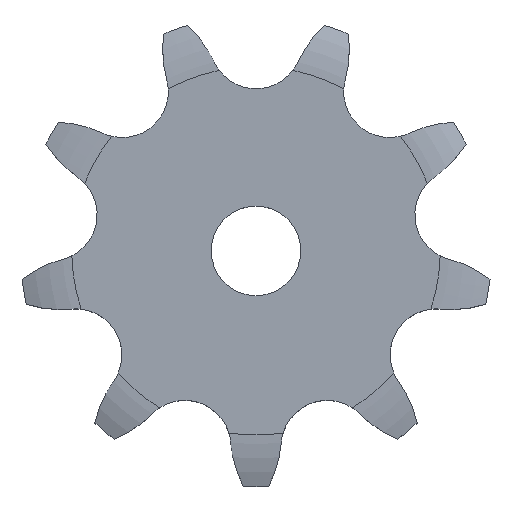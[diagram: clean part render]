
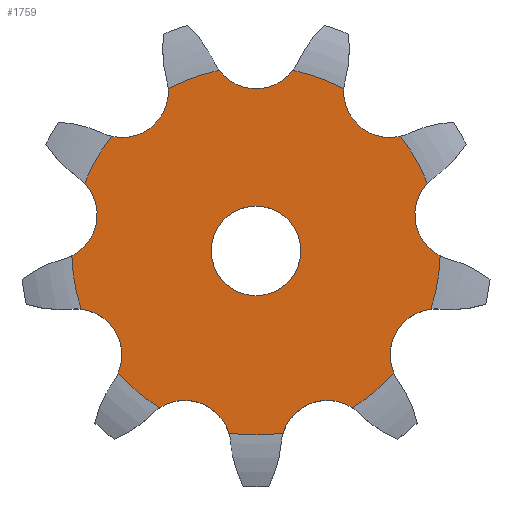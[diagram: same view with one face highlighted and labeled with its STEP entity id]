
A CAD part, top view. The second image highlights one B-rep face of the part: STEP entity #1759.
In plain terms, the highlighted planar face has unit normal (0, 0, 1).
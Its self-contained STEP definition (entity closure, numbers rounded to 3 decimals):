
#33=CARTESIAN_POINT('',(0.,0.,4.55));
#34=DIRECTION('',(0.,0.,-1.));
#35=DIRECTION('',(0.2,0.98,0.));
#36=AXIS2_PLACEMENT_3D('',#33,#34,#35);
#42=CARTESIAN_POINT('',(14.918,17.778,4.55));
#43=DIRECTION('',(0.,0.,1.));
#44=DIRECTION('',(-0.998,0.057,0.));
#45=AXIS2_PLACEMENT_3D('',#42,#43,#44);
#50=CARTESIAN_POINT('',(0.,0.,4.55));
#51=DIRECTION('',(0.,0.,-1.));
#52=DIRECTION('',(0.783,0.622,0.));
#53=AXIS2_PLACEMENT_3D('',#50,#51,#52);
#58=CARTESIAN_POINT('',(22.855,4.03,4.55));
#59=DIRECTION('',(0.,0.,1.));
#60=DIRECTION('',(-0.728,0.686,0.));
#61=AXIS2_PLACEMENT_3D('',#58,#59,#60);
#66=CARTESIAN_POINT('',(0.,0.,4.55));
#67=DIRECTION('',(0.,0.,-1.));
#68=DIRECTION('',(1.,-0.027,0.));
#69=AXIS2_PLACEMENT_3D('',#66,#67,#68);
#74=CARTESIAN_POINT('',(20.098,-11.604,4.55));
#75=DIRECTION('',(0.,0.,1.));
#76=DIRECTION('',(-0.117,0.993,0.));
#77=AXIS2_PLACEMENT_3D('',#74,#75,#76);
#82=CARTESIAN_POINT('',(0.,0.,4.55));
#83=DIRECTION('',(0.,0.,-1.));
#84=DIRECTION('',(0.748,-0.663,0.));
#85=AXIS2_PLACEMENT_3D('',#82,#83,#84);
#90=CARTESIAN_POINT('',(7.938,-21.808,4.55));
#91=DIRECTION('',(0.,0.,1.));
#92=DIRECTION('',(0.549,0.836,0.));
#93=AXIS2_PLACEMENT_3D('',#90,#91,#92);
#98=CARTESIAN_POINT('',(-7.938,-21.808,4.55));
#99=DIRECTION('',(0.,0.,1.));
#100=DIRECTION('',(0.958,0.287,0.));
#101=AXIS2_PLACEMENT_3D('',#98,#99,#100);
#106=CARTESIAN_POINT('',(0.,0.,4.55));
#107=DIRECTION('',(0.,0.,-1.));
#108=DIRECTION('',(-0.523,-0.852,0.));
#109=AXIS2_PLACEMENT_3D('',#106,#107,#108);
#114=CARTESIAN_POINT('',(-20.098,-11.604,4.55));
#115=DIRECTION('',(0.,0.,1.));
#116=DIRECTION('',(0.919,-0.395,0.));
#117=AXIS2_PLACEMENT_3D('',#114,#115,#116);
#122=CARTESIAN_POINT('',(0.,0.,4.55));
#123=DIRECTION('',(0.,0.,-1.));
#124=DIRECTION('',(-0.949,-0.317,0.));
#125=AXIS2_PLACEMENT_3D('',#122,#123,#124);
#130=CARTESIAN_POINT('',(-22.855,4.03,4.55));
#131=DIRECTION('',(0.,0.,1.));
#132=DIRECTION('',(0.449,-0.893,0.));
#133=AXIS2_PLACEMENT_3D('',#130,#131,#132);
#138=CARTESIAN_POINT('',(0.,0.,4.55));
#139=DIRECTION('',(0.,0.,-1.));
#140=DIRECTION('',(-0.93,0.367,0.));
#141=AXIS2_PLACEMENT_3D('',#138,#139,#140);
#146=CARTESIAN_POINT('',(-14.918,17.778,4.55));
#147=DIRECTION('',(0.,0.,1.));
#148=DIRECTION('',(-0.23,-0.973,0.));
#149=AXIS2_PLACEMENT_3D('',#146,#147,#148);
#154=CARTESIAN_POINT('',(0.,0.,4.55));
#155=DIRECTION('',(0.,0.,-1.));
#156=DIRECTION('',(-0.477,0.879,0.));
#157=AXIS2_PLACEMENT_3D('',#154,#155,#156);
#162=CARTESIAN_POINT('',(0.,23.208,4.55));
#163=DIRECTION('',(0.,0.,1.));
#164=DIRECTION('',(-0.802,-0.598,0.));
#165=AXIS2_PLACEMENT_3D('',#162,#163,#164);
#170=CARTESIAN_POINT('',(0.,0.,4.55));
#171=DIRECTION('',(0.,0.,1.));
#172=DIRECTION('',(1.,0.,0.));
#173=AXIS2_PLACEMENT_3D('',#170,#171,#172);
#178=CARTESIAN_POINT('',(0.,0.,4.55));
#179=DIRECTION('',(0.,0.,1.));
#180=DIRECTION('',(-1.,0.,0.));
#181=AXIS2_PLACEMENT_3D('',#178,#179,#180);
#234=CARTESIAN_POINT('',(0.,0.,4.55));
#235=DIRECTION('',(0.,0.,1.));
#236=DIRECTION('',(-0.147,-0.989,0.));
#237=AXIS2_PLACEMENT_3D('',#234,#235,#236);
#1175=CARTESIAN_POINT('',(-3.023,-20.333,4.55));
#1520=CARTESIAN_POINT('',(4.113,20.141,4.55));
#1521=CARTESIAN_POINT('',(9.795,18.073,4.55));
#1522=VERTEX_POINT('',#1520);
#1523=VERTEX_POINT('',#1521);
#1524=CARTESIAN_POINT('',(16.097,12.785,4.55));
#1525=CARTESIAN_POINT('',(19.121,7.548,4.55));
#1526=VERTEX_POINT('',#1524);
#1527=VERTEX_POINT('',#1525);
#1528=CARTESIAN_POINT('',(20.549,-0.553,4.55));
#1529=CARTESIAN_POINT('',(19.499,-6.508,4.55));
#1530=VERTEX_POINT('',#1528);
#1531=VERTEX_POINT('',#1529);
#1532=CARTESIAN_POINT('',(15.386,-13.633,4.55));
#1533=CARTESIAN_POINT('',(10.754,-17.519,4.55));
#1534=VERTEX_POINT('',#1532);
#1535=VERTEX_POINT('',#1533);
#1536=CARTESIAN_POINT('',(-10.754,-17.519,4.55));
#1537=CARTESIAN_POINT('',(-15.386,-13.633,4.55));
#1538=VERTEX_POINT('',#1536);
#1539=VERTEX_POINT('',#1537);
#1540=CARTESIAN_POINT('',(-19.499,-6.508,4.55));
#1541=CARTESIAN_POINT('',(-20.549,-0.553,4.55));
#1542=VERTEX_POINT('',#1540);
#1543=VERTEX_POINT('',#1541);
#1544=CARTESIAN_POINT('',(-19.121,7.548,4.55));
#1545=CARTESIAN_POINT('',(-16.097,12.785,4.55));
#1546=VERTEX_POINT('',#1544);
#1547=VERTEX_POINT('',#1545);
#1591=VERTEX_POINT('',#1175);
#1606=CARTESIAN_POINT('',(3.023,-20.333,4.55));
#1607=VERTEX_POINT('',#1606);
#1610=CARTESIAN_POINT('',(-9.795,18.073,4.55));
#1611=VERTEX_POINT('',#1610);
#1622=CARTESIAN_POINT('',(-4.113,20.141,4.55));
#1623=VERTEX_POINT('',#1622);
#1626=CARTESIAN_POINT('',(5.,0.,4.55));
#1627=CARTESIAN_POINT('',(-5.,0.,4.55));
#1628=VERTEX_POINT('',#1626);
#1629=VERTEX_POINT('',#1627);
#1710=CARTESIAN_POINT('',(0.,0.,4.55));
#1711=DIRECTION('',(0.,0.,1.));
#1712=DIRECTION('',(1.,0.,0.));
#1713=AXIS2_PLACEMENT_3D('',#1710,#1711,#1712);
#1714=PLANE('',#1713);
#1716=ORIENTED_EDGE('',*,*,#1715,.T.);
#1718=ORIENTED_EDGE('',*,*,#1717,.T.);
#1720=ORIENTED_EDGE('',*,*,#1719,.T.);
#1722=ORIENTED_EDGE('',*,*,#1721,.T.);
#1724=ORIENTED_EDGE('',*,*,#1723,.T.);
#1726=ORIENTED_EDGE('',*,*,#1725,.T.);
#1728=ORIENTED_EDGE('',*,*,#1727,.T.);
#1730=ORIENTED_EDGE('',*,*,#1729,.T.);
#1732=ORIENTED_EDGE('',*,*,#1731,.F.);
#1734=ORIENTED_EDGE('',*,*,#1733,.T.);
#1736=ORIENTED_EDGE('',*,*,#1735,.T.);
#1738=ORIENTED_EDGE('',*,*,#1737,.T.);
#1740=ORIENTED_EDGE('',*,*,#1739,.T.);
#1742=ORIENTED_EDGE('',*,*,#1741,.T.);
#1744=ORIENTED_EDGE('',*,*,#1743,.T.);
#1746=ORIENTED_EDGE('',*,*,#1745,.T.);
#1748=ORIENTED_EDGE('',*,*,#1747,.T.);
#1750=ORIENTED_EDGE('',*,*,#1749,.T.);
#1751=EDGE_LOOP('',(#1716,#1718,#1720,#1722,#1724,#1726,#1728,#1730,#1732,#1734,
#1736,#1738,#1740,#1742,#1744,#1746,#1748,#1750));
#1752=FACE_OUTER_BOUND('',#1751,.F.);
#1754=ORIENTED_EDGE('',*,*,#1753,.T.);
#1756=ORIENTED_EDGE('',*,*,#1755,.T.);
#1757=EDGE_LOOP('',(#1754,#1756));
#1758=FACE_BOUND('',#1757,.F.);
#1759=ADVANCED_FACE('',(#1752,#1758),#1714,.T.);
#37=CIRCLE('',#36,20.557);
#46=CIRCLE('',#45,5.131);
#54=CIRCLE('',#53,20.557);
#62=CIRCLE('',#61,5.131);
#70=CIRCLE('',#69,20.557);
#78=CIRCLE('',#77,5.131);
#86=CIRCLE('',#85,20.557);
#94=CIRCLE('',#93,5.131);
#102=CIRCLE('',#101,5.131);
#110=CIRCLE('',#109,20.557);
#118=CIRCLE('',#117,5.131);
#126=CIRCLE('',#125,20.557);
#134=CIRCLE('',#133,5.131);
#142=CIRCLE('',#141,20.557);
#150=CIRCLE('',#149,5.131);
#158=CIRCLE('',#157,20.557);
#166=CIRCLE('',#165,5.131);
#174=CIRCLE('',#173,5.);
#182=CIRCLE('',#181,5.);
#238=CIRCLE('',#237,20.557);
#1715=EDGE_CURVE('',#1522,#1523,#37,.T.);
#1717=EDGE_CURVE('',#1523,#1526,#46,.T.);
#1719=EDGE_CURVE('',#1526,#1527,#54,.T.);
#1721=EDGE_CURVE('',#1527,#1530,#62,.T.);
#1723=EDGE_CURVE('',#1530,#1531,#70,.T.);
#1725=EDGE_CURVE('',#1531,#1534,#78,.T.);
#1727=EDGE_CURVE('',#1534,#1535,#86,.T.);
#1729=EDGE_CURVE('',#1535,#1607,#94,.T.);
#1731=EDGE_CURVE('',#1591,#1607,#238,.T.);
#1733=EDGE_CURVE('',#1591,#1538,#102,.T.);
#1735=EDGE_CURVE('',#1538,#1539,#110,.T.);
#1737=EDGE_CURVE('',#1539,#1542,#118,.T.);
#1739=EDGE_CURVE('',#1542,#1543,#126,.T.);
#1741=EDGE_CURVE('',#1543,#1546,#134,.T.);
#1743=EDGE_CURVE('',#1546,#1547,#142,.T.);
#1745=EDGE_CURVE('',#1547,#1611,#150,.T.);
#1747=EDGE_CURVE('',#1611,#1623,#158,.T.);
#1749=EDGE_CURVE('',#1623,#1522,#166,.T.);
#1753=EDGE_CURVE('',#1628,#1629,#174,.T.);
#1755=EDGE_CURVE('',#1629,#1628,#182,.T.);
